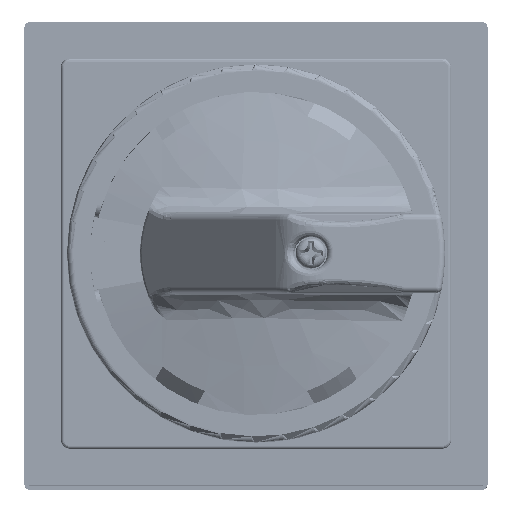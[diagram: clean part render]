
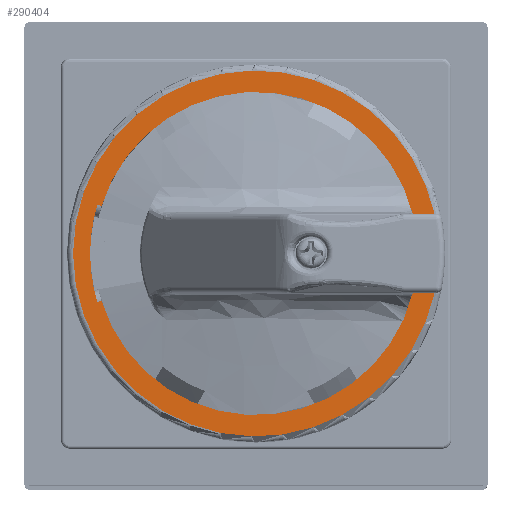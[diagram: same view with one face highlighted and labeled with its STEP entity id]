
A CAD part, top view. The second image highlights one B-rep face of the part: STEP entity #290404.
In plain terms, the highlighted planar face has unit normal (0, 0, 1).
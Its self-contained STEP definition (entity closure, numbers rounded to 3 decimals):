
#1603 = DIRECTION ( 'NONE',  ( 0., 0., 1. ) ) ;
#4033 = ORIENTED_EDGE ( 'NONE', *, *, #55926, .F. ) ;
#12412 = LINE ( 'NONE', #241600, #130237 ) ;
#15689 = CARTESIAN_POINT ( 'NONE',  ( 25.69, 6.5, 449.5 ) ) ;
#17898 = DIRECTION ( 'NONE',  ( 0., 0., 1. ) ) ;
#21784 = CARTESIAN_POINT ( 'NONE',  ( 29.287, 6.5, 449.5 ) ) ;
#27559 = VERTEX_POINT ( 'NONE', #21784 ) ;
#31943 = CARTESIAN_POINT ( 'NONE',  ( -26.016, -7.939, 449.5 ) ) ;
#34761 = CARTESIAN_POINT ( 'NONE',  ( 25.69, -6.5, 449.5 ) ) ;
#36857 = EDGE_CURVE ( 'NONE', #69024, #180087, #260659, .T. ) ;
#39368 = VERTEX_POINT ( 'NONE', #245461 ) ;
#43962 = ORIENTED_EDGE ( 'NONE', *, *, #128593, .T. ) ;
#44213 = VERTEX_POINT ( 'NONE', #34761 ) ;
#46021 = CARTESIAN_POINT ( 'NONE',  ( 0., 0., 449.5 ) ) ;
#46981 = DIRECTION ( 'NONE',  ( 1., 0., 0. ) ) ;
#46983 = CARTESIAN_POINT ( 'NONE',  ( 0., 0., 449.5 ) ) ;
#50926 = DIRECTION ( 'NONE',  ( -1., 0., 0. ) ) ;
#54859 = CARTESIAN_POINT ( 'NONE',  ( 30.311, -6.5, 449.5 ) ) ;
#55926 = EDGE_CURVE ( 'NONE', #39368, #69024, #240150, .T. ) ;
#58449 = VECTOR ( 'NONE', #285622, 1000. ) ;
#58903 = CIRCLE ( 'NONE', #284149, 26.5 ) ;
#59998 = EDGE_CURVE ( 'NONE', #228618, #180087, #246540, .T. ) ;
#61937 = DIRECTION ( 'NONE',  ( 0.983, -0.183, 0. ) ) ;
#62067 = CIRCLE ( 'NONE', #222916, 30. ) ;
#63960 = DIRECTION ( 'NONE',  ( -0.983, -0.183, 0. ) ) ;
#69024 = VERTEX_POINT ( 'NONE', #292191 ) ;
#70102 = VERTEX_POINT ( 'NONE', #199621 ) ;
#70626 = DIRECTION ( 'NONE',  ( -1., 0., 0. ) ) ;
#70720 = CARTESIAN_POINT ( 'NONE',  ( 0., 0., 449.5 ) ) ;
#86862 = CARTESIAN_POINT ( 'NONE',  ( 0., 0., 449.5 ) ) ;
#88025 = VERTEX_POINT ( 'NONE', #223072 ) ;
#90756 = DIRECTION ( 'NONE',  ( -1., 0., 0. ) ) ;
#92811 = LINE ( 'NONE', #54859, #228497 ) ;
#110243 = DIRECTION ( 'NONE',  ( 0., 0., -1. ) ) ;
#114358 = ORIENTED_EDGE ( 'NONE', *, *, #150915, .T. ) ;
#119265 = LINE ( 'NONE', #170922, #58449 ) ;
#120302 = ORIENTED_EDGE ( 'NONE', *, *, #36857, .F. ) ;
#120581 = EDGE_CURVE ( 'NONE', #27559, #226513, #119265, .T. ) ;
#128593 = EDGE_CURVE ( 'NONE', #88025, #221758, #62067, .T. ) ;
#130237 = VECTOR ( 'NONE', #61937, 1000. ) ;
#130402 = EDGE_CURVE ( 'NONE', #44213, #221758, #92811, .T. ) ;
#133320 = AXIS2_PLACEMENT_3D ( 'NONE', #46021, #207646, #46981 ) ;
#136821 = CARTESIAN_POINT ( 'NONE',  ( -25.323, -7.81, 449.5 ) ) ;
#145676 = DIRECTION ( 'NONE',  ( 1., 0., 0. ) ) ;
#150915 = EDGE_CURVE ( 'NONE', #44213, #228618, #58903, .T. ) ;
#158124 = ORIENTED_EDGE ( 'NONE', *, *, #228684, .T. ) ;
#165404 = CARTESIAN_POINT ( 'NONE',  ( 29.287, -6.5, 449.5 ) ) ;
#170922 = CARTESIAN_POINT ( 'NONE',  ( -17.854, 6.5, 449.5 ) ) ;
#180087 = VERTEX_POINT ( 'NONE', #31943 ) ;
#180628 = DIRECTION ( 'NONE',  ( -1., 0., 0. ) ) ;
#182391 = PLANE ( 'NONE',  #203819 ) ;
#183858 = CIRCLE ( 'NONE', #133320, 26.5 ) ;
#185864 = VECTOR ( 'NONE', #63960, 1000. ) ;
#187664 = DIRECTION ( 'NONE',  ( 0., 0., 1. ) ) ;
#198714 = CARTESIAN_POINT ( 'NONE',  ( -26.165, -7.966, 449.5 ) ) ;
#199621 = CARTESIAN_POINT ( 'NONE',  ( -25.323, 7.81, 449.5 ) ) ;
#203819 = AXIS2_PLACEMENT_3D ( 'NONE', #228342, #1603, #70626 ) ;
#206126 = CARTESIAN_POINT ( 'NONE',  ( 0., 0., 449.5 ) ) ;
#207646 = DIRECTION ( 'NONE',  ( 0., 0., -1. ) ) ;
#207783 = ORIENTED_EDGE ( 'NONE', *, *, #59998, .T. ) ;
#218610 = EDGE_LOOP ( 'NONE', ( #260848, #266418, #43962, #256109, #114358, #207783, #120302, #4033, #273416, #158124 ) ) ;
#221758 = VERTEX_POINT ( 'NONE', #165404 ) ;
#222916 = AXIS2_PLACEMENT_3D ( 'NONE', #46983, #187664, #50926 ) ;
#223072 = CARTESIAN_POINT ( 'NONE',  ( -30., 0., 449.5 ) ) ;
#226513 = VERTEX_POINT ( 'NONE', #15689 ) ;
#228342 = CARTESIAN_POINT ( 'NONE',  ( 31., 0., 449.5 ) ) ;
#228497 = VECTOR ( 'NONE', #145676, 1000. ) ;
#228618 = VERTEX_POINT ( 'NONE', #136821 ) ;
#228684 = EDGE_CURVE ( 'NONE', #70102, #226513, #183858, .T. ) ;
#230090 = AXIS2_PLACEMENT_3D ( 'NONE', #86862, #17898, #180628 ) ;
#231091 = DIRECTION ( 'NONE',  ( 0., 0., 1. ) ) ;
#235040 = AXIS2_PLACEMENT_3D ( 'NONE', #70720, #294393, #90756 ) ;
#235787 = AXIS2_PLACEMENT_3D ( 'NONE', #206126, #231091, #275065 ) ;
#240150 = CIRCLE ( 'NONE', #235787, 27.2 ) ;
#241600 = CARTESIAN_POINT ( 'NONE',  ( -25.476, 7.838, 449.5 ) ) ;
#245461 = CARTESIAN_POINT ( 'NONE',  ( -26.016, 7.939, 449.5 ) ) ;
#246540 = LINE ( 'NONE', #198714, #185864 ) ;
#246815 = DIRECTION ( 'NONE',  ( 1., 0., 0. ) ) ;
#247817 = CARTESIAN_POINT ( 'NONE',  ( 0., 0., 449.5 ) ) ;
#256109 = ORIENTED_EDGE ( 'NONE', *, *, #130402, .F. ) ;
#260659 = CIRCLE ( 'NONE', #235040, 27.2 ) ;
#260848 = ORIENTED_EDGE ( 'NONE', *, *, #120581, .F. ) ;
#264283 = FACE_OUTER_BOUND ( 'NONE', #218610, .T. ) ;
#266418 = ORIENTED_EDGE ( 'NONE', *, *, #281988, .T. ) ;
#273416 = ORIENTED_EDGE ( 'NONE', *, *, #281959, .T. ) ;
#275065 = DIRECTION ( 'NONE',  ( -1., 0., 0. ) ) ;
#281959 = EDGE_CURVE ( 'NONE', #39368, #70102, #12412, .T. ) ;
#281988 = EDGE_CURVE ( 'NONE', #27559, #88025, #290974, .T. ) ;
#284149 = AXIS2_PLACEMENT_3D ( 'NONE', #247817, #110243, #246815 ) ;
#285622 = DIRECTION ( 'NONE',  ( -1., 0., 0. ) ) ;
#290404 = ADVANCED_FACE ( 'NONE', ( #264283 ), #182391, .T. ) ;
#290974 = CIRCLE ( 'NONE', #230090, 30. ) ;
#292191 = CARTESIAN_POINT ( 'NONE',  ( -27.2, 0., 449.5 ) ) ;
#294393 = DIRECTION ( 'NONE',  ( 0., 0., 1. ) ) ;
